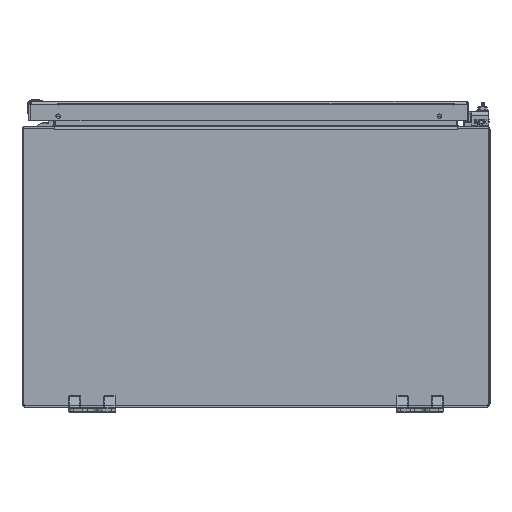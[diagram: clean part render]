
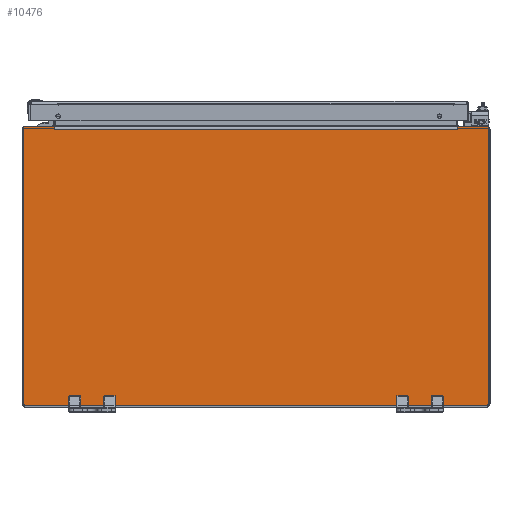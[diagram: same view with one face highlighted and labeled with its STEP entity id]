
A CAD part, front view. The second image highlights one B-rep face of the part: STEP entity #10476.
In plain terms, the highlighted planar face has unit normal (0, -1, 0).
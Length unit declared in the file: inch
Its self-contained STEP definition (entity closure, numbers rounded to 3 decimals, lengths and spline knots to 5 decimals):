
#9579=CARTESIAN_POINT('',(-9.887,0.,5.897));
#9580=DIRECTION('',(0.,-1.,0.));
#9581=DIRECTION('',(0.,0.,1.));
#9582=AXIS2_PLACEMENT_3D('',#9579,#9580,#9581);
#9587=CARTESIAN_POINT('',(9.887,0.,5.897));
#9588=DIRECTION('',(0.,-1.,0.));
#9589=DIRECTION('',(1.,0.,0.));
#9590=AXIS2_PLACEMENT_3D('',#9587,#9588,#9589);
#9595=DIRECTION('',(0.,0.,-1.));
#9596=VECTOR('',#9595,11.764);
#9597=CARTESIAN_POINT('',(9.967,0.,5.897));
#9598=LINE('',#9597,#9596);
#9602=CARTESIAN_POINT('',(9.887,0.,-5.867));
#9603=DIRECTION('',(0.,-1.,0.));
#9604=DIRECTION('',(0.,0.,-1.));
#9605=AXIS2_PLACEMENT_3D('',#9602,#9603,#9604);
#9610=CARTESIAN_POINT('',(-9.887,0.,-5.867));
#9611=DIRECTION('',(0.,-1.,0.));
#9612=DIRECTION('',(-1.,0.,0.));
#9613=AXIS2_PLACEMENT_3D('',#9610,#9611,#9612);
#9618=DIRECTION('',(0.,0.,1.));
#9619=VECTOR('',#9618,11.764);
#9620=CARTESIAN_POINT('',(-9.967,0.,-5.867));
#9621=LINE('',#9620,#9619);
#9646=DIRECTION('',(1.,0.,0.));
#9647=VECTOR('',#9646,19.774);
#9648=CARTESIAN_POINT('',(-9.887,0.,-5.947));
#9649=LINE('',#9648,#9647);
#9688=DIRECTION('',(-1.,0.,0.));
#9689=VECTOR('',#9688,1.262);
#9690=CARTESIAN_POINT('',(9.887,0.,5.977));
#9691=LINE('',#9690,#9689);
#9716=DIRECTION('',(0.,0.,-1.));
#9717=VECTOR('',#9716,0.094);
#9718=CARTESIAN_POINT('',(8.625,0.,5.977));
#9719=LINE('',#9718,#9717);
#9859=DIRECTION('',(1.,0.,0.));
#9860=VECTOR('',#9859,17.25);
#9861=CARTESIAN_POINT('',(-8.625,0.,5.883));
#9862=LINE('',#9861,#9860);
#9903=DIRECTION('',(0.,0.,1.));
#9904=VECTOR('',#9903,0.094);
#9905=CARTESIAN_POINT('',(-8.625,0.,5.883));
#9906=LINE('',#9905,#9904);
#9938=DIRECTION('',(-1.,0.,0.));
#9939=VECTOR('',#9938,1.262);
#9940=CARTESIAN_POINT('',(-8.625,0.,5.977));
#9941=LINE('',#9940,#9939);
#10329=CARTESIAN_POINT('',(-8.625,0.,5.883));
#10330=CARTESIAN_POINT('',(8.625,0.,5.883));
#10331=VERTEX_POINT('',#10329);
#10332=VERTEX_POINT('',#10330);
#10405=CARTESIAN_POINT('',(8.625,0.,5.977));
#10407=VERTEX_POINT('',#10405);
#10409=CARTESIAN_POINT('',(-8.625,0.,5.977));
#10411=VERTEX_POINT('',#10409);
#10413=CARTESIAN_POINT('',(-9.887,0.,5.977));
#10414=CARTESIAN_POINT('',(-9.967,0.,5.897));
#10415=VERTEX_POINT('',#10413);
#10416=VERTEX_POINT('',#10414);
#10421=CARTESIAN_POINT('',(-9.967,0.,-5.867));
#10422=CARTESIAN_POINT('',(-9.887,0.,-5.947));
#10423=VERTEX_POINT('',#10421);
#10424=VERTEX_POINT('',#10422);
#10429=CARTESIAN_POINT('',(9.967,0.,5.897));
#10430=CARTESIAN_POINT('',(9.887,0.,5.977));
#10431=VERTEX_POINT('',#10429);
#10432=VERTEX_POINT('',#10430);
#10437=CARTESIAN_POINT('',(9.887,0.,-5.947));
#10438=CARTESIAN_POINT('',(9.967,0.,-5.867));
#10439=VERTEX_POINT('',#10437);
#10440=VERTEX_POINT('',#10438);
#10445=CARTESIAN_POINT('',(0.,0.,0.));
#10446=DIRECTION('',(0.,-1.,0.));
#10447=DIRECTION('',(-1.,0.,0.));
#10448=AXIS2_PLACEMENT_3D('',#10445,#10446,#10447);
#10449=PLANE('',#10448);
#10451=ORIENTED_EDGE('',*,*,#10450,.F.);
#10453=ORIENTED_EDGE('',*,*,#10452,.F.);
#10455=ORIENTED_EDGE('',*,*,#10454,.F.);
#10457=ORIENTED_EDGE('',*,*,#10456,.T.);
#10459=ORIENTED_EDGE('',*,*,#10458,.F.);
#10461=ORIENTED_EDGE('',*,*,#10460,.F.);
#10463=ORIENTED_EDGE('',*,*,#10462,.F.);
#10465=ORIENTED_EDGE('',*,*,#10464,.T.);
#10467=ORIENTED_EDGE('',*,*,#10466,.F.);
#10469=ORIENTED_EDGE('',*,*,#10468,.F.);
#10471=ORIENTED_EDGE('',*,*,#10470,.F.);
#10473=ORIENTED_EDGE('',*,*,#10472,.T.);
#10474=EDGE_LOOP('',(#10451,#10453,#10455,#10457,#10459,#10461,#10463,#10465,
#10467,#10469,#10471,#10473));
#10475=FACE_OUTER_BOUND('',#10474,.F.);
#9583=CIRCLE('',#9582,0.08);
#9591=CIRCLE('',#9590,0.08);
#9606=CIRCLE('',#9605,0.08);
#9614=CIRCLE('',#9613,0.08);
#10450=EDGE_CURVE('',#10415,#10416,#9583,.T.);
#10452=EDGE_CURVE('',#10411,#10415,#9941,.T.);
#10454=EDGE_CURVE('',#10331,#10411,#9906,.T.);
#10456=EDGE_CURVE('',#10331,#10332,#9862,.T.);
#10458=EDGE_CURVE('',#10407,#10332,#9719,.T.);
#10460=EDGE_CURVE('',#10432,#10407,#9691,.T.);
#10462=EDGE_CURVE('',#10431,#10432,#9591,.T.);
#10464=EDGE_CURVE('',#10431,#10440,#9598,.T.);
#10466=EDGE_CURVE('',#10439,#10440,#9606,.T.);
#10468=EDGE_CURVE('',#10424,#10439,#9649,.T.);
#10470=EDGE_CURVE('',#10423,#10424,#9614,.T.);
#10472=EDGE_CURVE('',#10423,#10416,#9621,.T.);
#10476=ADVANCED_FACE('',(#10475),#10449,.T.);
